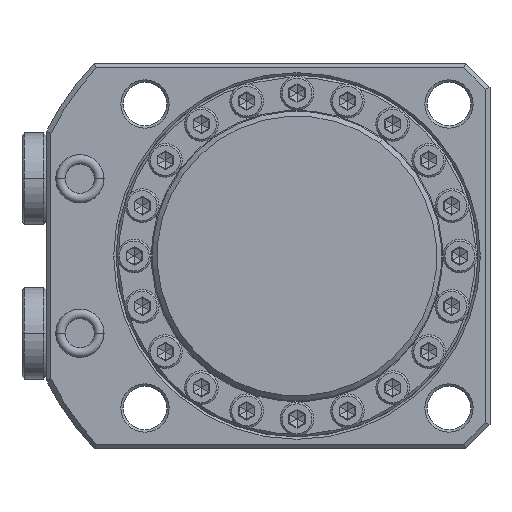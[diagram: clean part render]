
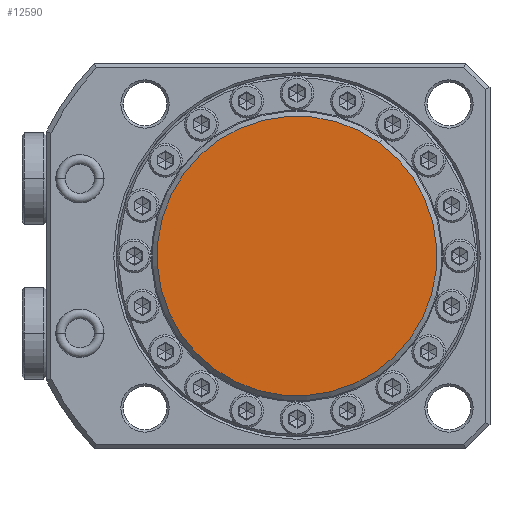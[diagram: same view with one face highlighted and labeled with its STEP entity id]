
A CAD part, front view. The second image highlights one B-rep face of the part: STEP entity #12590.
In plain terms, the highlighted planar face has unit normal (0, -1, 0) as drawn and (0, 0, 1) by its records, which use the part's own axes.
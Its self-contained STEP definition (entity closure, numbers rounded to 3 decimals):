
#10817=CARTESIAN_POINT('',(0.,0.,0.));
#10818=DIRECTION('',(0.,0.,1.));
#10819=DIRECTION('',(-1.,0.,0.));
#10820=AXIS2_PLACEMENT_3D('',#10817,#10818,#10819);
#10822=CARTESIAN_POINT('',(0.,0.,0.));
#10823=DIRECTION('',(0.,0.,1.));
#10824=DIRECTION('',(1.,0.,0.));
#10825=AXIS2_PLACEMENT_3D('',#10822,#10823,#10824);
#12227=CARTESIAN_POINT('',(-29.,0.,0.));
#12228=CARTESIAN_POINT('',(29.,0.,0.));
#12229=VERTEX_POINT('',#12227);
#12230=VERTEX_POINT('',#12228);
#12579=CARTESIAN_POINT('',(0.,0.,0.));
#12580=DIRECTION('',(0.,0.,1.));
#12581=DIRECTION('',(-1.,0.,0.));
#12582=AXIS2_PLACEMENT_3D('',#12579,#12580,#12581);
#12583=PLANE('',#12582);
#12585=ORIENTED_EDGE('',*,*,#12584,.F.);
#12587=ORIENTED_EDGE('',*,*,#12586,.F.);
#12588=EDGE_LOOP('',(#12585,#12587));
#12589=FACE_OUTER_BOUND('',#12588,.F.);
#12590=ADVANCED_FACE('',(#12589),#12583,.T.);
#10821=CIRCLE('',#10820,29.);
#10826=CIRCLE('',#10825,29.);
#12584=EDGE_CURVE('',#12229,#12230,#10821,.T.);
#12586=EDGE_CURVE('',#12230,#12229,#10826,.T.);
